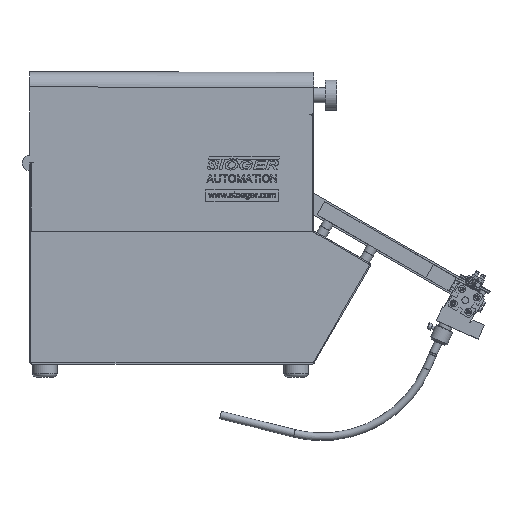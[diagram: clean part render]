
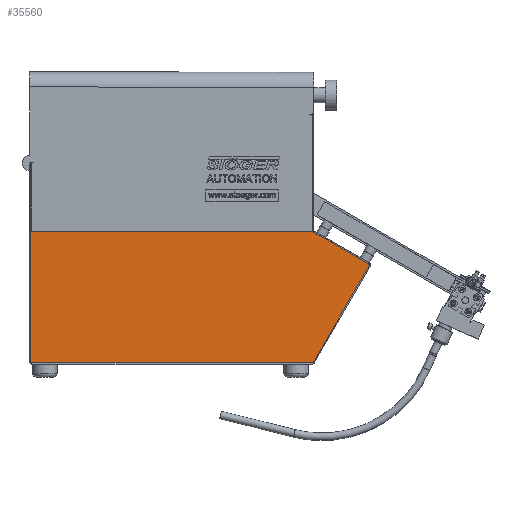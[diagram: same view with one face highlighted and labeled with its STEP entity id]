
A CAD part, left-side view. The second image highlights one B-rep face of the part: STEP entity #35560.
In plain terms, the highlighted planar face has unit normal (-1, 0, 0).
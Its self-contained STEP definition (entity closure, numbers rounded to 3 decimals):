
#3871=LINE($,#60752,#6777);
#3873=LINE($,#60758,#6779);
#3874=LINE($,#60762,#6780);
#3875=LINE($,#60766,#6781);
#3876=LINE($,#60769,#6782);
#6777=VECTOR($,#44861,84.696);
#6779=VECTOR($,#44867,368.33);
#6780=VECTOR($,#44870,169.5);
#6781=VECTOR($,#44873,368.268);
#6782=VECTOR($,#44876,146.822);
#8212=PLANE($,#37859);
#10611=FACE_OUTER_BOUND($,#13001,.T.);
#13001=EDGE_LOOP($,(#29984,#29985,#29986,#29987,#29988,#29989,#29990,#29991,
#29992,#29993));
#14180=CIRCLE($,#37857,1.5);
#14181=CIRCLE($,#37860,1.5);
#14182=CIRCLE($,#37861,1.5);
#14183=CIRCLE($,#37862,1.5);
#14184=CIRCLE($,#37863,1.5);
#17220=VERTEX_POINT($,#60745);
#17221=VERTEX_POINT($,#60746);
#17222=VERTEX_POINT($,#60751);
#17223=VERTEX_POINT($,#60755);
#17224=VERTEX_POINT($,#60757);
#17225=VERTEX_POINT($,#60759);
#17226=VERTEX_POINT($,#60761);
#17227=VERTEX_POINT($,#60763);
#17228=VERTEX_POINT($,#60765);
#17229=VERTEX_POINT($,#60767);
#21645=EDGE_CURVE($,#17220,#17221,#14180,.T.);
#21648=EDGE_CURVE($,#17221,#17222,#3871,.T.);
#21650=EDGE_CURVE($,#17222,#17223,#14181,.T.);
#21651=EDGE_CURVE($,#17223,#17224,#3873,.T.);
#21652=EDGE_CURVE($,#17224,#17225,#14182,.T.);
#21653=EDGE_CURVE($,#17225,#17226,#3874,.T.);
#21654=EDGE_CURVE($,#17226,#17227,#14183,.T.);
#21655=EDGE_CURVE($,#17227,#17228,#3875,.T.);
#21656=EDGE_CURVE($,#17228,#17229,#14184,.T.);
#21657=EDGE_CURVE($,#17229,#17220,#3876,.T.);
#29984=ORIENTED_EDGE($,*,*,#21645,.T.);
#29985=ORIENTED_EDGE($,*,*,#21648,.T.);
#29986=ORIENTED_EDGE($,*,*,#21650,.T.);
#29987=ORIENTED_EDGE($,*,*,#21651,.T.);
#29988=ORIENTED_EDGE($,*,*,#21652,.T.);
#29989=ORIENTED_EDGE($,*,*,#21653,.T.);
#29990=ORIENTED_EDGE($,*,*,#21654,.T.);
#29991=ORIENTED_EDGE($,*,*,#21655,.T.);
#29992=ORIENTED_EDGE($,*,*,#21656,.T.);
#29993=ORIENTED_EDGE($,*,*,#21657,.T.);
#35560=ADVANCED_FACE($,(#10611),#8212,.T.);
#37857=AXIS2_PLACEMENT_3D($,#60747,#44855,#44856);
#37859=AXIS2_PLACEMENT_3D($,#60754,#44863,#44864);
#37860=AXIS2_PLACEMENT_3D($,#60756,#44865,#44866);
#37861=AXIS2_PLACEMENT_3D($,#60760,#44868,#44869);
#37862=AXIS2_PLACEMENT_3D($,#60764,#44871,#44872);
#37863=AXIS2_PLACEMENT_3D($,#60768,#44874,#44875);
#44855=DIRECTION('center_axis',(-1.,0.,0.));
#44856=DIRECTION('ref_axis',(0.,1.,0.));
#44861=DIRECTION($,(0.,0.866,0.5));
#44863=DIRECTION('center_axis',(-1.,0.,0.));
#44864=DIRECTION('ref_axis',(0.,0.,1.));
#44865=DIRECTION('center_axis',(-1.,0.,0.));
#44866=DIRECTION('ref_axis',(0.,1.,0.));
#44867=DIRECTION($,(0.,1.,0.));
#44868=DIRECTION('center_axis',(-1.,0.,0.));
#44869=DIRECTION('ref_axis',(0.,-1.,0.));
#44870=DIRECTION($,(0.,0.,-1.));
#44871=DIRECTION('center_axis',(-1.,0.,0.));
#44872=DIRECTION('ref_axis',(0.,1.,0.));
#44873=DIRECTION($,(0.,-1.,0.));
#44874=DIRECTION('center_axis',(-1.,0.,0.));
#44875=DIRECTION('ref_axis',(0.,1.,0.));
#44876=DIRECTION($,(0.,-0.5,0.866));
#60745=CARTESIAN_POINT('',(-81.5,-72.978,129.402));
#60746=CARTESIAN_POINT('',(-81.5,-72.429,131.451));
#60747=CARTESIAN_POINT('Origin',(-81.5,-71.679,130.152));
#60751=CARTESIAN_POINT('',(-81.5,0.92,173.799));
#60752=CARTESIAN_POINT($,(-81.5,-72.429,131.451));
#60754=CARTESIAN_POINT('Origin',(-81.5,-71.679,130.152));
#60755=CARTESIAN_POINT('',(-81.5,1.67,174.));
#60756=CARTESIAN_POINT('Origin',(-81.5,1.67,172.5));
#60757=CARTESIAN_POINT('',(-81.5,370.,174.));
#60758=CARTESIAN_POINT($,(-81.5,1.67,174.));
#60759=CARTESIAN_POINT('',(-81.5,371.5,172.5));
#60760=CARTESIAN_POINT('Origin',(-81.5,370.,172.5));
#60761=CARTESIAN_POINT('',(-81.5,371.5,3.));
#60762=CARTESIAN_POINT($,(-81.5,371.5,172.5));
#60763=CARTESIAN_POINT('',(-81.5,370.,1.5));
#60764=CARTESIAN_POINT('Origin',(-81.5,370.,3.));
#60765=CARTESIAN_POINT('',(-81.5,1.732,1.5));
#60766=CARTESIAN_POINT($,(-81.5,370.,1.5));
#60767=CARTESIAN_POINT('',(-81.5,0.433,2.25));
#60768=CARTESIAN_POINT('Origin',(-81.5,1.732,3.));
#60769=CARTESIAN_POINT($,(-81.5,0.433,2.25));
